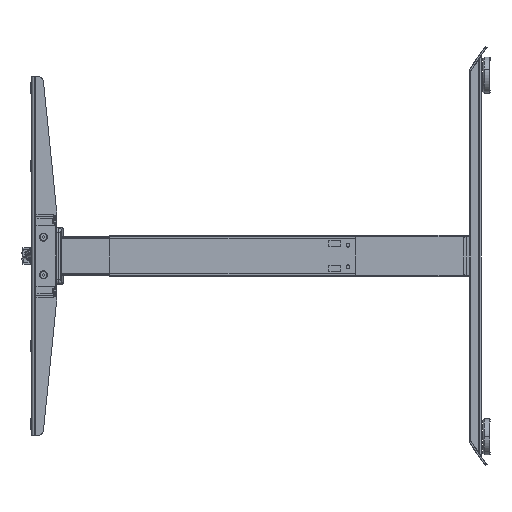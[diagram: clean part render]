
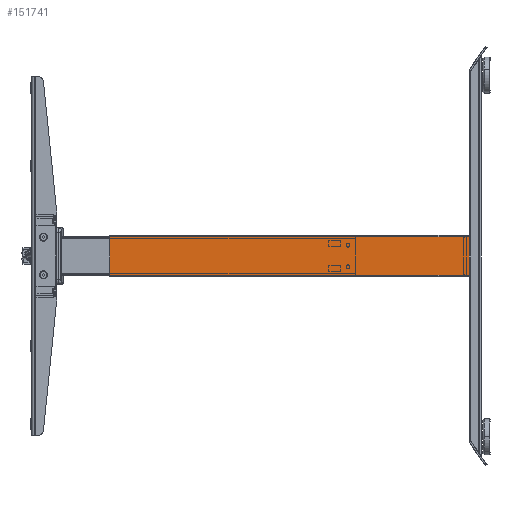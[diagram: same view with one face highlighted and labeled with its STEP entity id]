
A CAD part, left-side view. The second image highlights one B-rep face of the part: STEP entity #151741.
In plain terms, the highlighted planar face has unit normal (-1, 0, 0).
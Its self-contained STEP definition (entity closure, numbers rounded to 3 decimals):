
#150702 = PLANE('',#150703);
#150703 = AXIS2_PLACEMENT_3D('',#150704,#150705,#150706);
#150704 = CARTESIAN_POINT('',(35.,-35.,300.));
#150705 = DIRECTION('',(0.,0.,-1.));
#150706 = DIRECTION('',(-1.,0.,0.));
#150973 = VERTEX_POINT('',#150974);
#150974 = CARTESIAN_POINT('',(-35.,32.,300.));
#150989 = CYLINDRICAL_SURFACE('',#150990,3.);
#150990 = AXIS2_PLACEMENT_3D('',#150991,#150992,#150993);
#150991 = CARTESIAN_POINT('',(-32.,32.,300.));
#150992 = DIRECTION('',(0.,0.,-1.));
#150993 = DIRECTION('',(-1.,0.,0.));
#151001 = EDGE_CURVE('',#151002,#150973,#151004,.T.);
#151002 = VERTEX_POINT('',#151003);
#151003 = CARTESIAN_POINT('',(-35.,-32.,300.));
#151004 = SURFACE_CURVE('',#151005,(#151009,#151016),.PCURVE_S1.);
#151005 = LINE('',#151006,#151007);
#151006 = CARTESIAN_POINT('',(-35.,0.,300.));
#151007 = VECTOR('',#151008,1.);
#151008 = DIRECTION('',(0.,1.,0.));
#151009 = PCURVE('',#150702,#151010);
#151010 = DEFINITIONAL_REPRESENTATION('',(#151011),#151015);
#151011 = LINE('',#151012,#151013);
#151012 = CARTESIAN_POINT('',(70.,35.));
#151013 = VECTOR('',#151014,1.);
#151014 = DIRECTION('',(0.,1.));
#151015 = ( GEOMETRIC_REPRESENTATION_CONTEXT(2) 
PARAMETRIC_REPRESENTATION_CONTEXT() REPRESENTATION_CONTEXT('2D SPACE',''
  ) );
#151016 = PCURVE('',#151017,#151022);
#151017 = PLANE('',#151018);
#151018 = AXIS2_PLACEMENT_3D('',#151019,#151020,#151021);
#151019 = CARTESIAN_POINT('',(-35.,-32.,-300.));
#151020 = DIRECTION('',(1.,0.,0.));
#151021 = DIRECTION('',(-0.,1.,0.));
#151022 = DEFINITIONAL_REPRESENTATION('',(#151023),#151027);
#151023 = LINE('',#151024,#151025);
#151024 = CARTESIAN_POINT('',(32.,600.));
#151025 = VECTOR('',#151026,1.);
#151026 = DIRECTION('',(1.,0.));
#151027 = ( GEOMETRIC_REPRESENTATION_CONTEXT(2) 
PARAMETRIC_REPRESENTATION_CONTEXT() REPRESENTATION_CONTEXT('2D SPACE',''
  ) );
#151046 = CYLINDRICAL_SURFACE('',#151047,3.);
#151047 = AXIS2_PLACEMENT_3D('',#151048,#151049,#151050);
#151048 = CARTESIAN_POINT('',(-32.,-32.,300.));
#151049 = DIRECTION('',(0.,0.,-1.));
#151050 = DIRECTION('',(-1.,0.,0.));
#151213 = PLANE('',#151214);
#151214 = AXIS2_PLACEMENT_3D('',#151215,#151216,#151217);
#151215 = CARTESIAN_POINT('',(35.,-35.,-300.));
#151216 = DIRECTION('',(0.,0.,-1.));
#151217 = DIRECTION('',(-1.,0.,0.));
#151695 = EDGE_CURVE('',#150973,#151696,#151698,.T.);
#151696 = VERTEX_POINT('',#151697);
#151697 = CARTESIAN_POINT('',(-35.,32.,-300.));
#151698 = SURFACE_CURVE('',#151699,(#151703,#151710),.PCURVE_S1.);
#151699 = LINE('',#151700,#151701);
#151700 = CARTESIAN_POINT('',(-35.,32.,0.));
#151701 = VECTOR('',#151702,1.);
#151702 = DIRECTION('',(0.,0.,-1.));
#151703 = PCURVE('',#150989,#151704);
#151704 = DEFINITIONAL_REPRESENTATION('',(#151705),#151709);
#151705 = LINE('',#151706,#151707);
#151706 = CARTESIAN_POINT('',(0.,300.));
#151707 = VECTOR('',#151708,1.);
#151708 = DIRECTION('',(0.,1.));
#151709 = ( GEOMETRIC_REPRESENTATION_CONTEXT(2) 
PARAMETRIC_REPRESENTATION_CONTEXT() REPRESENTATION_CONTEXT('2D SPACE',''
  ) );
#151710 = PCURVE('',#151017,#151711);
#151711 = DEFINITIONAL_REPRESENTATION('',(#151712),#151716);
#151712 = LINE('',#151713,#151714);
#151713 = CARTESIAN_POINT('',(64.,300.));
#151714 = VECTOR('',#151715,1.);
#151715 = DIRECTION('',(0.,-1.));
#151716 = ( GEOMETRIC_REPRESENTATION_CONTEXT(2) 
PARAMETRIC_REPRESENTATION_CONTEXT() REPRESENTATION_CONTEXT('2D SPACE',''
  ) );
#151741 = ADVANCED_FACE('',(#151742),#151017,.F.);
#151742 = FACE_BOUND('',#151743,.T.);
#151743 = EDGE_LOOP('',(#151744,#151767,#151768,#151769));
#151744 = ORIENTED_EDGE('',*,*,#151745,.F.);
#151745 = EDGE_CURVE('',#151002,#151746,#151748,.T.);
#151746 = VERTEX_POINT('',#151747);
#151747 = CARTESIAN_POINT('',(-35.,-32.,-300.));
#151748 = SURFACE_CURVE('',#151749,(#151753,#151760),.PCURVE_S1.);
#151749 = LINE('',#151750,#151751);
#151750 = CARTESIAN_POINT('',(-35.,-32.,0.));
#151751 = VECTOR('',#151752,1.);
#151752 = DIRECTION('',(-0.,-0.,-1.));
#151753 = PCURVE('',#151017,#151754);
#151754 = DEFINITIONAL_REPRESENTATION('',(#151755),#151759);
#151755 = LINE('',#151756,#151757);
#151756 = CARTESIAN_POINT('',(0.,300.));
#151757 = VECTOR('',#151758,1.);
#151758 = DIRECTION('',(0.,-1.));
#151759 = ( GEOMETRIC_REPRESENTATION_CONTEXT(2) 
PARAMETRIC_REPRESENTATION_CONTEXT() REPRESENTATION_CONTEXT('2D SPACE',''
  ) );
#151760 = PCURVE('',#151046,#151761);
#151761 = DEFINITIONAL_REPRESENTATION('',(#151762),#151766);
#151762 = LINE('',#151763,#151764);
#151763 = CARTESIAN_POINT('',(6.283,300.));
#151764 = VECTOR('',#151765,1.);
#151765 = DIRECTION('',(0.,1.));
#151766 = ( GEOMETRIC_REPRESENTATION_CONTEXT(2) 
PARAMETRIC_REPRESENTATION_CONTEXT() REPRESENTATION_CONTEXT('2D SPACE',''
  ) );
#151767 = ORIENTED_EDGE('',*,*,#151001,.T.);
#151768 = ORIENTED_EDGE('',*,*,#151695,.T.);
#151769 = ORIENTED_EDGE('',*,*,#151770,.F.);
#151770 = EDGE_CURVE('',#151746,#151696,#151771,.T.);
#151771 = SURFACE_CURVE('',#151772,(#151776,#151783),.PCURVE_S1.);
#151772 = LINE('',#151773,#151774);
#151773 = CARTESIAN_POINT('',(-35.,0.,-300.));
#151774 = VECTOR('',#151775,1.);
#151775 = DIRECTION('',(0.,1.,0.));
#151776 = PCURVE('',#151017,#151777);
#151777 = DEFINITIONAL_REPRESENTATION('',(#151778),#151782);
#151778 = LINE('',#151779,#151780);
#151779 = CARTESIAN_POINT('',(32.,0.));
#151780 = VECTOR('',#151781,1.);
#151781 = DIRECTION('',(1.,0.));
#151782 = ( GEOMETRIC_REPRESENTATION_CONTEXT(2) 
PARAMETRIC_REPRESENTATION_CONTEXT() REPRESENTATION_CONTEXT('2D SPACE',''
  ) );
#151783 = PCURVE('',#151213,#151784);
#151784 = DEFINITIONAL_REPRESENTATION('',(#151785),#151789);
#151785 = LINE('',#151786,#151787);
#151786 = CARTESIAN_POINT('',(70.,35.));
#151787 = VECTOR('',#151788,1.);
#151788 = DIRECTION('',(0.,1.));
#151789 = ( GEOMETRIC_REPRESENTATION_CONTEXT(2) 
PARAMETRIC_REPRESENTATION_CONTEXT() REPRESENTATION_CONTEXT('2D SPACE',''
  ) );
